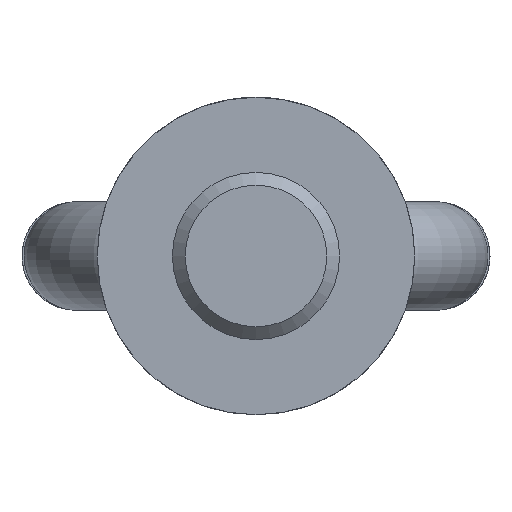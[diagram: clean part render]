
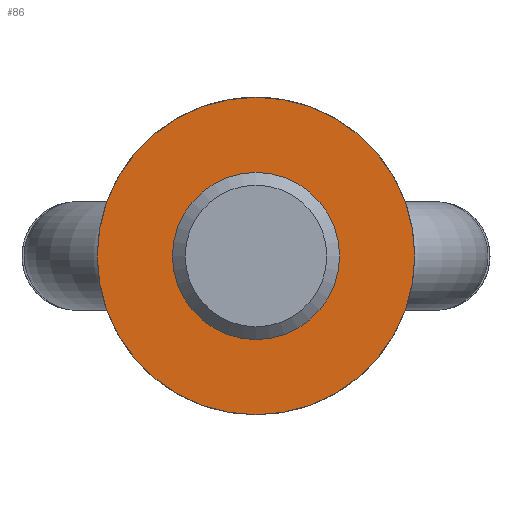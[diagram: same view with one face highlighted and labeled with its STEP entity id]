
A CAD part, front view. The second image highlights one B-rep face of the part: STEP entity #86.
In plain terms, the highlighted planar face has unit normal (0, -1, 0).
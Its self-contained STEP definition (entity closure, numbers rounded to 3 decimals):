
#86 = ADVANCED_FACE( '', ( #132, #133 ), #134, .F. );
#132 = FACE_BOUND( '', #200, .T. );
#133 = FACE_OUTER_BOUND( '', #201, .T. );
#134 = PLANE( '', #202 );
#200 = EDGE_LOOP( '', ( #307 ) );
#201 = EDGE_LOOP( '', ( #308 ) );
#202 = AXIS2_PLACEMENT_3D( '', #309, #310, #311 );
#307 = ORIENTED_EDGE( '', *, *, #413, .T. );
#308 = ORIENTED_EDGE( '', *, *, #427, .T. );
#309 = CARTESIAN_POINT( '', ( 19., 0., 0. ) );
#310 = DIRECTION( '', ( 0., 1., 0. ) );
#311 = DIRECTION( '', ( 0., 0., 1. ) );
#413 = EDGE_CURVE( '', #471, #471, #472, .T. );
#427 = EDGE_CURVE( '', #496, #496, #497, .T. );
#471 = VERTEX_POINT( '', #867 );
#472 = CIRCLE( '', #868, 10. );
#496 = VERTEX_POINT( '', #906 );
#497 = CIRCLE( '', #907, 19. );
#867 = CARTESIAN_POINT( '', ( 0., 0., 10. ) );
#868 = AXIS2_PLACEMENT_3D( '', #1001, #1002, #1003 );
#906 = CARTESIAN_POINT( '', ( 0., 0., -19. ) );
#907 = AXIS2_PLACEMENT_3D( '', #1024, #1025, #1026 );
#1001 = CARTESIAN_POINT( '', ( 0., 0., 0. ) );
#1002 = DIRECTION( '', ( 0., 1., 0. ) );
#1003 = DIRECTION( '', ( 0., 0., 1. ) );
#1024 = CARTESIAN_POINT( '', ( 0., 0., 0. ) );
#1025 = DIRECTION( '', ( 0., -1., 0. ) );
#1026 = DIRECTION( '', ( 0., 0., -1. ) );
